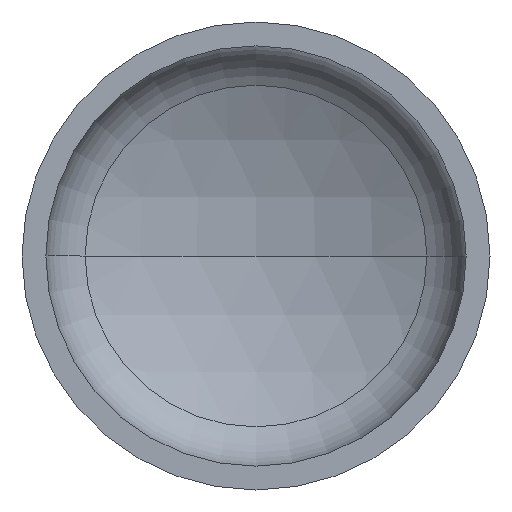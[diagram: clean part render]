
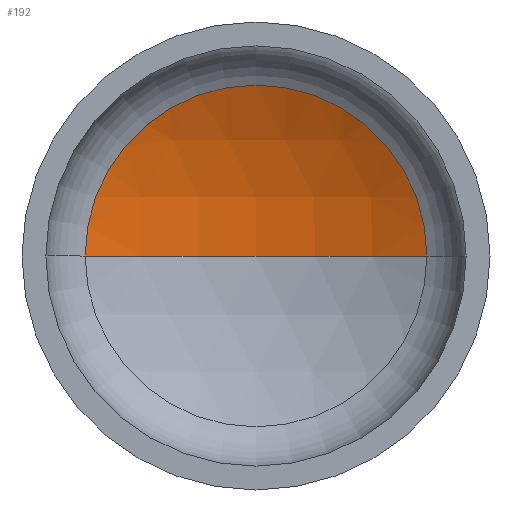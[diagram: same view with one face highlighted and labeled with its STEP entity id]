
A CAD part, front view. The second image highlights one B-rep face of the part: STEP entity #192.
In plain terms, the highlighted spherical face has radius 880 mm.
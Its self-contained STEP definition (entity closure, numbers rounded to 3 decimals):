
#1 = AXIS2_PLACEMENT_3D ( 'NONE', #235, #347, #179 ) ;
#3 = DIRECTION ( 'NONE',  ( 1., 0., 0. ) ) ;
#8 = AXIS2_PLACEMENT_3D ( 'NONE', #16, #310, #231 ) ;
#16 = CARTESIAN_POINT ( 'NONE',  ( 0., -511.763, 0. ) ) ;
#17 = AXIS2_PLACEMENT_3D ( 'NONE', #229, #276, #3 ) ;
#32 = AXIS2_PLACEMENT_3D ( 'NONE', #107, #393, #197 ) ;
#43 = VERTEX_POINT ( 'NONE', #291 ) ;
#48 = VERTEX_POINT ( 'NONE', #292 ) ;
#93 = CIRCLE ( 'NONE', #1, 880. ) ;
#102 = CIRCLE ( 'NONE', #8, 880. ) ;
#106 = EDGE_LOOP ( 'NONE', ( #365, #328, #275 ) ) ;
#107 = CARTESIAN_POINT ( 'NONE',  ( 0., -511.763, 0. ) ) ;
#179 = DIRECTION ( 'NONE',  ( -1., 0., 0. ) ) ;
#192 = ADVANCED_FACE ( 'NONE', ( #211 ), #277, .F. ) ;
#197 = DIRECTION ( 'NONE',  ( -1., 0., 0. ) ) ;
#211 = FACE_OUTER_BOUND ( 'NONE', #106, .T. ) ;
#229 = CARTESIAN_POINT ( 'NONE',  ( 0., 271.267, 0. ) ) ;
#231 = DIRECTION ( 'NONE',  ( 1., 0., 0. ) ) ;
#235 = CARTESIAN_POINT ( 'NONE',  ( 0., -511.763, 0. ) ) ;
#275 = ORIENTED_EDGE ( 'NONE', *, *, #322, .T. ) ;
#276 = DIRECTION ( 'NONE',  ( 0., -1., 0. ) ) ;
#277 = SPHERICAL_SURFACE ( 'NONE', #32, 880. ) ;
#291 = CARTESIAN_POINT ( 'NONE',  ( -401.577, 271.267, 0. ) ) ;
#292 = CARTESIAN_POINT ( 'NONE',  ( 401.577, 271.267, 0. ) ) ;
#310 = DIRECTION ( 'NONE',  ( 0., 0., 1. ) ) ;
#321 = CARTESIAN_POINT ( 'NONE',  ( 0., 368.237, 0. ) ) ;
#322 = EDGE_CURVE ( 'NONE', #48, #43, #405, .T. ) ;
#328 = ORIENTED_EDGE ( 'NONE', *, *, #374, .T. ) ;
#343 = EDGE_CURVE ( 'NONE', #387, #43, #102, .T. ) ;
#347 = DIRECTION ( 'NONE',  ( 0., 0., -1. ) ) ;
#365 = ORIENTED_EDGE ( 'NONE', *, *, #343, .F. ) ;
#374 = EDGE_CURVE ( 'NONE', #387, #48, #93, .T. ) ;
#387 = VERTEX_POINT ( 'NONE', #321 ) ;
#393 = DIRECTION ( 'NONE',  ( 0., 0., -1. ) ) ;
#405 = CIRCLE ( 'NONE', #17, 401.577 ) ;
